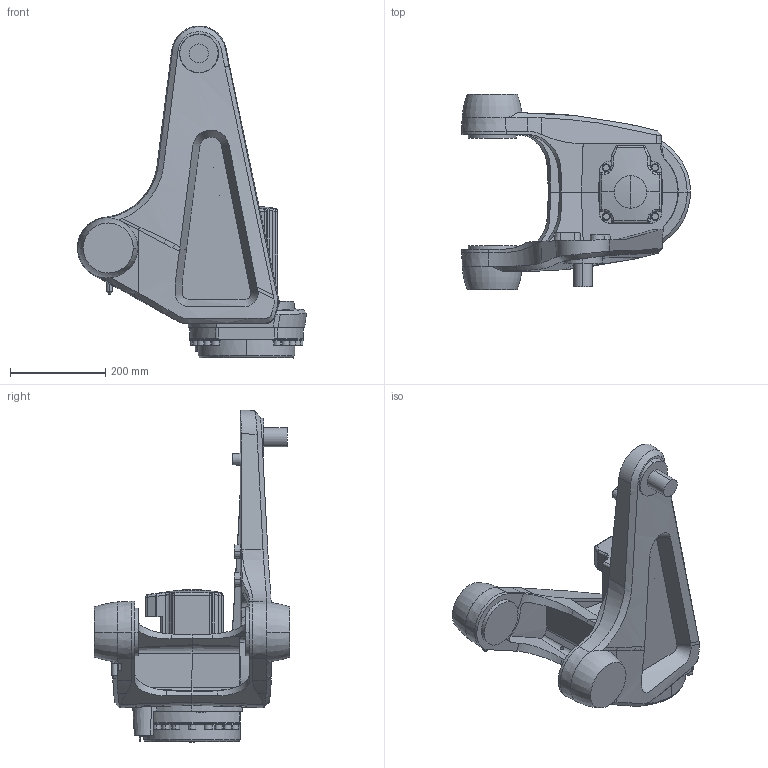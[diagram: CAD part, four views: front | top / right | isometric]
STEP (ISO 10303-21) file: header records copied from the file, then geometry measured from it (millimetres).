
FILE_DESCRIPTION (( 'STEP AP214' ), '1' );
FILE_NAME ('IRB760_445-318_LINK3b_CAD_rev00.STEP', '2020-02-03T12:38:07', ( '' ), ( '' ), 'SwSTEP 2.0', 'SolidWorks 2018', '' );
FILE_SCHEMA (( 'AUTOMOTIVE_DESIGN' ));
Length unit declared in the file: millimetre
Products named in the file (2): IRB760_445-318_LINK3b_CAD_rev00
Bounding box: 480.15 x 410 x 695.77 mm (x, y, z)
Volume: 15372507.2 mm3; surface area: 978967.2 mm2
Topology: 2 solids, 10 shells, 657 faces, 1868 edges, 1226 vertices
Faces by surface type: plane 236, cylinder 182, bspline 128, cone 97, torus 8, sphere 6
Entity records: 67494 total; most frequent: CARTESIAN_POINT 44537, ORIENTED_EDGE 3676, DIRECTION 2791, EDGE_CURVE 1838, VERTEX_POINT 1225, AXIS2_PLACEMENT_3D 1073, EDGE_LOOP 693, UNCERTAINTY_MEASURE_WITH_UNIT 661
